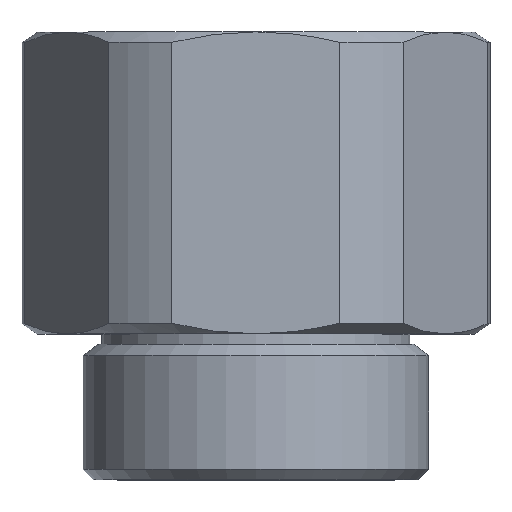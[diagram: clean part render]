
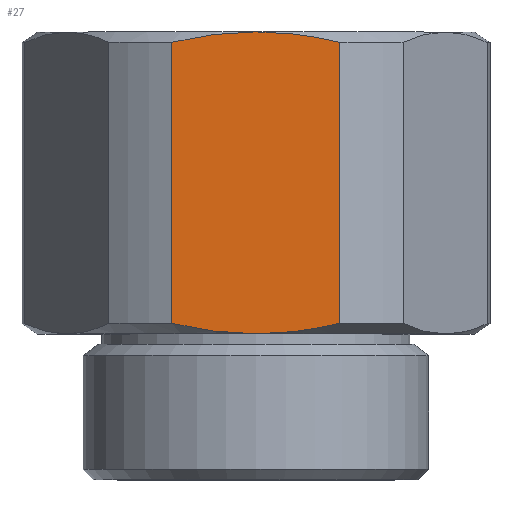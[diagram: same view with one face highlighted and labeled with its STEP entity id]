
A CAD part, top view. The second image highlights one B-rep face of the part: STEP entity #27.
In plain terms, the highlighted planar face has unit normal (0, 0, 1).
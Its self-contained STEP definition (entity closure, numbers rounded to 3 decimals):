
#27=ADVANCED_FACE('',(#85),#862,.T.);
#85=FACE_OUTER_BOUND('',#144,.T.);
#144=EDGE_LOOP('',(#247,#248,#249,#250,#251,#252));
#247=ORIENTED_EDGE('',*,*,#512,.T.);
#248=ORIENTED_EDGE('',*,*,#513,.T.);
#249=ORIENTED_EDGE('',*,*,#489,.F.);
#250=ORIENTED_EDGE('',*,*,#467,.F.);
#251=ORIENTED_EDGE('',*,*,#466,.F.);
#252=ORIENTED_EDGE('',*,*,#490,.T.);
#466=EDGE_CURVE('',#778,#779,#712,.T.);
#467=EDGE_CURVE('',#779,#777,#713,.T.);
#489=EDGE_CURVE('',#777,#802,#579,.T.);
#490=EDGE_CURVE('',#778,#803,#722,.T.);
#512=EDGE_CURVE('',#803,#791,#730,.T.);
#513=EDGE_CURVE('',#791,#802,#731,.T.);
#579=(
BOUNDED_CURVE()
B_SPLINE_CURVE(1,(#1841,#1842),.UNSPECIFIED.,.F.,.F.)
B_SPLINE_CURVE_WITH_KNOTS((2,2),(0.5,14.005),
 .UNSPECIFIED.)
CURVE()
GEOMETRIC_REPRESENTATION_ITEM()
RATIONAL_B_SPLINE_CURVE((1.,1.))
REPRESENTATION_ITEM('')
);
#712=B_SPLINE_CURVE_WITH_KNOTS('',3,(#1747,#1748,#1749,#1750,#1751,#1752),
 .UNSPECIFIED.,.F.,.F.,(4,2,4),(0.,2.039,4.082),
 .UNSPECIFIED.);
#713=B_SPLINE_CURVE_WITH_KNOTS('',3,(#1753,#1754,#1755,#1756,#1757,#1758),
 .UNSPECIFIED.,.F.,.F.,(4,2,4),(4.082,6.124,8.163),
 .UNSPECIFIED.);
#722=B_SPLINE_CURVE_WITH_KNOTS('',1,(#1843,#1844),.UNSPECIFIED.,.F.,.F.,
(2,2),(0.5,14.005),.UNSPECIFIED.);
#730=B_SPLINE_CURVE_WITH_KNOTS('',3,(#1922,#1923,#1924,#1925,#1926,#1927),
 .UNSPECIFIED.,.F.,.F.,(4,2,4),(0.,2.039,4.082),
 .UNSPECIFIED.);
#731=B_SPLINE_CURVE_WITH_KNOTS('',3,(#1928,#1929,#1930,#1931,#1932,#1933),
 .UNSPECIFIED.,.F.,.F.,(4,2,4),(4.082,6.124,8.163),
 .UNSPECIFIED.);
#777=VERTEX_POINT('',#1621);
#778=VERTEX_POINT('',#1622);
#779=VERTEX_POINT('',#1623);
#791=VERTEX_POINT('',#1635);
#802=VERTEX_POINT('',#1646);
#803=VERTEX_POINT('',#1647);
#862=PLANE('',#991);
#991=AXIS2_PLACEMENT_3D('',#1269,#1090,$);
#1090=DIRECTION('',(0.,0.,1.));
#1269=CARTESIAN_POINT('',(2483.604,1281.553,10.5));
#1621=CARTESIAN_POINT('',(2483.604,1281.053,10.5));
#1622=CARTESIAN_POINT('',(2475.526,1281.053,10.5));
#1623=CARTESIAN_POINT('',(2479.565,1281.553,10.5));
#1635=CARTESIAN_POINT('',(2479.565,1267.048,10.5));
#1646=CARTESIAN_POINT('',(2483.604,1267.548,10.5));
#1647=CARTESIAN_POINT('',(2475.526,1267.548,10.5));
#1747=CARTESIAN_POINT('',(2475.526,1281.053,10.5));
#1748=CARTESIAN_POINT('',(2476.188,1281.212,10.5));
#1749=CARTESIAN_POINT('',(2476.855,1281.338,10.5));
#1750=CARTESIAN_POINT('',(2478.208,1281.509,10.5));
#1751=CARTESIAN_POINT('',(2478.883,1281.553,10.5));
#1752=CARTESIAN_POINT('',(2479.565,1281.553,10.5));
#1753=CARTESIAN_POINT('',(2479.565,1281.553,10.5));
#1754=CARTESIAN_POINT('',(2480.247,1281.553,10.5));
#1755=CARTESIAN_POINT('',(2480.922,1281.509,10.5));
#1756=CARTESIAN_POINT('',(2482.275,1281.338,10.5));
#1757=CARTESIAN_POINT('',(2482.942,1281.212,10.5));
#1758=CARTESIAN_POINT('',(2483.604,1281.053,10.5));
#1841=CARTESIAN_POINT('',(2483.604,1281.053,10.5));
#1842=CARTESIAN_POINT('',(2483.604,1267.548,10.5));
#1843=CARTESIAN_POINT('',(2475.526,1281.053,10.5));
#1844=CARTESIAN_POINT('',(2475.526,1267.548,10.5));
#1922=CARTESIAN_POINT('',(2475.526,1267.548,10.5));
#1923=CARTESIAN_POINT('',(2476.188,1267.39,10.5));
#1924=CARTESIAN_POINT('',(2476.855,1267.264,10.5));
#1925=CARTESIAN_POINT('',(2478.208,1267.093,10.5));
#1926=CARTESIAN_POINT('',(2478.883,1267.048,10.5));
#1927=CARTESIAN_POINT('',(2479.565,1267.048,10.5));
#1928=CARTESIAN_POINT('',(2479.565,1267.048,10.5));
#1929=CARTESIAN_POINT('',(2480.247,1267.048,10.5));
#1930=CARTESIAN_POINT('',(2480.922,1267.093,10.5));
#1931=CARTESIAN_POINT('',(2482.275,1267.264,10.5));
#1932=CARTESIAN_POINT('',(2482.942,1267.39,10.5));
#1933=CARTESIAN_POINT('',(2483.604,1267.548,10.5));
